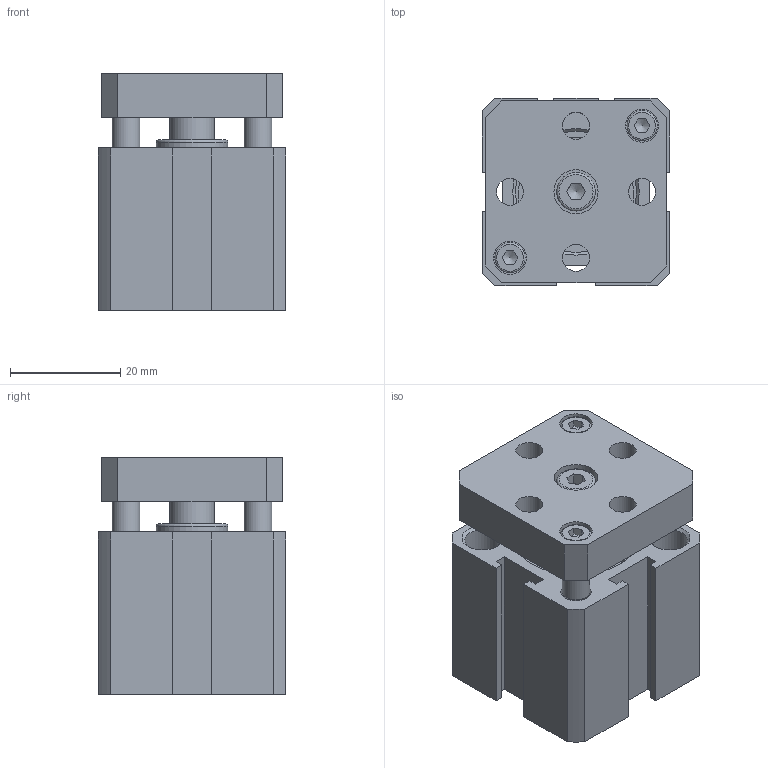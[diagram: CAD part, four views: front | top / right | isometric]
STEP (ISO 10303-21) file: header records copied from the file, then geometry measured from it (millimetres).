
FILE_DESCRIPTION((''),'2;1');
FILE_NAME('I:\3D電子目錄\氣缸\JTD\JTD\JTD20\JTD20x10.stp','2007-08-09T19:37:13',('Administrator'),(''),'Autodesk Inventor 11','Autodesk Inventor 11','');
FILE_SCHEMA(('AUTOMOTIVE_DESIGN { 1 0 10303 214 1 1 1 1 }'));
Length unit declared in the file: millimetre
Products named in the file (5): JTD20; R 形環 23; ISO 4762 M4 x 10; ISO 4762 M3 x 8
Assembly tree (6 placements, depth 2):
  JTD20
    JTD20
    R 形環 23  x2
    ISO 4762 M4 x 10
    ISO 4762 M3 x 8  x2
Bounding box: 34 x 34 x 43 mm (x, y, z)
Volume: 34428.7 mm3; surface area: 15894.8 mm2
Topology: 6 solids, 6 shells, 185 faces, 420 edges, 275 vertices
Faces by surface type: plane 99, cylinder 51, bspline 16, cone 14, torus 5
Full cylindrical faces by diameter (mm): 1.5 x6, 3 x2, 4 x1, 4.3 x2, 4.576 x2, 5 x2, 5.5 x4, 6.5 x4, 7 x1, 8 x1, 13 x2, 22 x4, 23.2 x2
Entity records: 4480 total; most frequent: CARTESIAN_POINT 974, DIRECTION 708, ORIENTED_EDGE 592, EDGE_CURVE 296, AXIS2_PLACEMENT_3D 270, EDGE_LOOP 262, VERTEX_POINT 228, VECTOR 168
